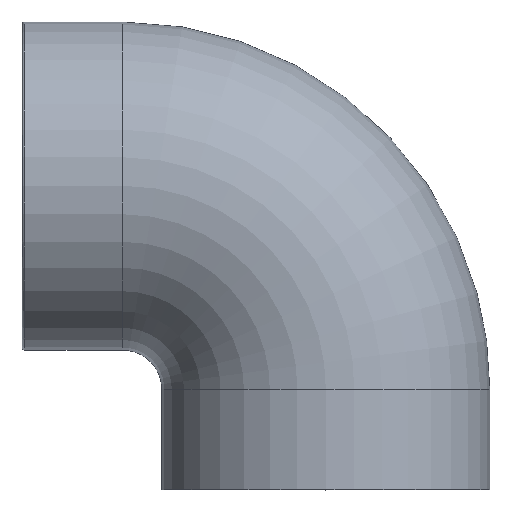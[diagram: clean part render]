
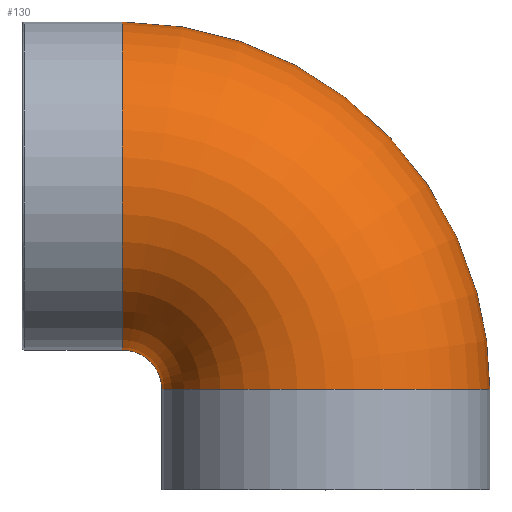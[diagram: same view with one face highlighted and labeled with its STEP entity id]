
A CAD part, top view. The second image highlights one B-rep face of the part: STEP entity #130.
In plain terms, the highlighted toroidal (fillet/blend) face has major radius 67 mm and minor radius 54 mm.
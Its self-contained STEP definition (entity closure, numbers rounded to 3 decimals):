
#28=FACE_BOUND('',#56,.T.);
#39=FACE_OUTER_BOUND('',#55,.T.);
#55=EDGE_LOOP('',(#110));
#56=EDGE_LOOP('',(#111));
#73=CIRCLE('',#150,54.);
#74=CIRCLE('',#151,54.);
#84=VERTEX_POINT('',#225);
#85=VERTEX_POINT('',#227);
#95=EDGE_CURVE('',#84,#84,#73,.T.);
#96=EDGE_CURVE('',#85,#85,#74,.T.);
#110=ORIENTED_EDGE('',*,*,#95,.T.);
#111=ORIENTED_EDGE('',*,*,#96,.T.);
#123=TOROIDAL_SURFACE('',#149,67.,54.);
#130=ADVANCED_FACE('',(#39,#28),#123,.T.);
#149=AXIS2_PLACEMENT_3D('',#224,#184,#185);
#150=AXIS2_PLACEMENT_3D('',#226,#186,#187);
#151=AXIS2_PLACEMENT_3D('',#228,#188,#189);
#184=DIRECTION('center_axis',(0.,0.,-1.));
#185=DIRECTION('ref_axis',(-1.,0.,0.));
#186=DIRECTION('center_axis',(0.,1.,0.));
#187=DIRECTION('ref_axis',(0.,0.,-1.));
#188=DIRECTION('center_axis',(1.,0.,0.));
#189=DIRECTION('ref_axis',(0.,0.,-1.));
#224=CARTESIAN_POINT('Origin',(-67.,-67.,0.));
#225=CARTESIAN_POINT('',(0.,-67.,54.));
#226=CARTESIAN_POINT('Origin',(0.,-67.,0.));
#227=CARTESIAN_POINT('',(-67.,0.,-54.));
#228=CARTESIAN_POINT('Origin',(-67.,0.,0.));
